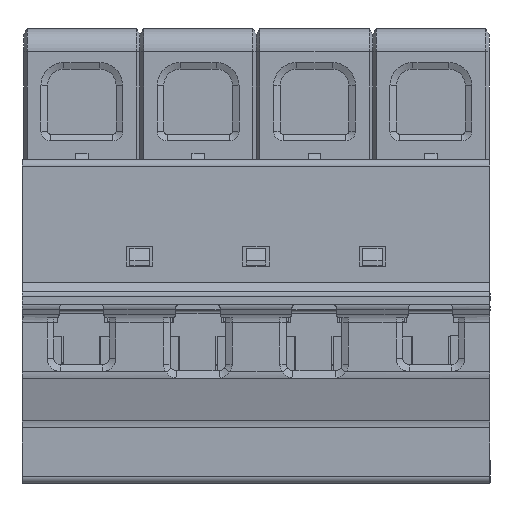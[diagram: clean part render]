
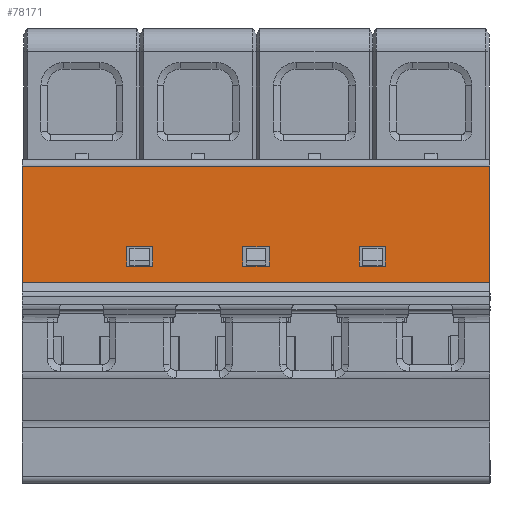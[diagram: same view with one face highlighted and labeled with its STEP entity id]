
A CAD part, left-side view. The second image highlights one B-rep face of the part: STEP entity #78171.
In plain terms, the highlighted planar face has unit normal (-1, 0, 0).
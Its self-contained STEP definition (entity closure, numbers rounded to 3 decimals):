
#1356=DIRECTION('',(0.,0.,-1.));
#1357=VECTOR('',#1356,17.8);
#1358=CARTESIAN_POINT('',(-0.05,71.6,43.));
#1359=LINE('',#1358,#1357);
#3136=DIRECTION('',(0.,-1.,0.));
#3137=VECTOR('',#3136,71.6);
#3138=CARTESIAN_POINT('',(-0.05,71.6,25.2));
#3139=LINE('',#3138,#3137);
#3140=DIRECTION('',(0.,0.,-1.));
#3141=VECTOR('',#3140,17.8);
#3142=CARTESIAN_POINT('',(-0.05,0.,43.));
#3143=LINE('',#3142,#3141);
#3144=DIRECTION('',(0.,0.,1.));
#3145=VECTOR('',#3144,3.);
#3146=CARTESIAN_POINT('',(-0.05,16.,27.7));
#3147=LINE('',#3146,#3145);
#3148=DIRECTION('',(0.,-1.,0.));
#3149=VECTOR('',#3148,4.);
#3150=CARTESIAN_POINT('',(-0.05,20.,27.7));
#3151=LINE('',#3150,#3149);
#3152=DIRECTION('',(0.,0.,1.));
#3153=VECTOR('',#3152,3.);
#3154=CARTESIAN_POINT('',(-0.05,51.6,27.7));
#3155=LINE('',#3154,#3153);
#3156=DIRECTION('',(0.,1.,0.));
#3157=VECTOR('',#3156,4.);
#3158=CARTESIAN_POINT('',(-0.05,51.6,30.7));
#3159=LINE('',#3158,#3157);
#3160=DIRECTION('',(0.,1.,0.));
#3161=VECTOR('',#3160,71.6);
#3162=CARTESIAN_POINT('',(-0.05,0.,43.));
#3163=LINE('',#3162,#3161);
#17235=DIRECTION('',(0.,-1.,0.));
#17236=VECTOR('',#17235,4.);
#17237=CARTESIAN_POINT('',(-0.05,20.,30.7));
#17238=LINE('',#17237,#17236);
#17243=DIRECTION('',(0.,0.,1.));
#17244=VECTOR('',#17243,3.);
#17245=CARTESIAN_POINT('',(-0.05,20.,27.7));
#17246=LINE('',#17245,#17244);
#17351=DIRECTION('',(0.,0.,-1.));
#17352=VECTOR('',#17351,3.);
#17353=CARTESIAN_POINT('',(-0.05,33.8,30.7));
#17354=LINE('',#17353,#17352);
#17363=DIRECTION('',(0.,1.,0.));
#17364=VECTOR('',#17363,4.);
#17365=CARTESIAN_POINT('',(-0.05,33.8,27.7));
#17366=LINE('',#17365,#17364);
#17375=DIRECTION('',(0.,0.,1.));
#17376=VECTOR('',#17375,3.);
#17377=CARTESIAN_POINT('',(-0.05,37.8,27.7));
#17378=LINE('',#17377,#17376);
#17383=DIRECTION('',(0.,-1.,0.));
#17384=VECTOR('',#17383,4.);
#17385=CARTESIAN_POINT('',(-0.05,37.8,30.7));
#17386=LINE('',#17385,#17384);
#33550=DIRECTION('',(0.,0.,1.));
#33551=VECTOR('',#33550,3.);
#33552=CARTESIAN_POINT('',(-0.05,55.6,27.7));
#33553=LINE('',#33552,#33551);
#33562=DIRECTION('',(0.,1.,0.));
#33563=VECTOR('',#33562,4.);
#33564=CARTESIAN_POINT('',(-0.05,51.6,27.7));
#33565=LINE('',#33564,#33563);
#57466=CARTESIAN_POINT('',(-0.05,0.,25.2));
#57467=VERTEX_POINT('',#57466);
#57468=CARTESIAN_POINT('',(-0.05,0.,43.));
#57469=VERTEX_POINT('',#57468);
#58319=CARTESIAN_POINT('',(-0.05,71.6,43.));
#58320=VERTEX_POINT('',#58319);
#58321=CARTESIAN_POINT('',(-0.05,71.6,25.2));
#58322=VERTEX_POINT('',#58321);
#59386=CARTESIAN_POINT('',(-0.05,33.8,30.7));
#59387=CARTESIAN_POINT('',(-0.05,33.8,27.7));
#59388=VERTEX_POINT('',#59386);
#59389=VERTEX_POINT('',#59387);
#59390=CARTESIAN_POINT('',(-0.05,37.8,30.7));
#59391=VERTEX_POINT('',#59390);
#59392=CARTESIAN_POINT('',(-0.05,37.8,27.7));
#59393=VERTEX_POINT('',#59392);
#59394=CARTESIAN_POINT('',(-0.05,16.,27.7));
#59395=CARTESIAN_POINT('',(-0.05,16.,30.7));
#59396=VERTEX_POINT('',#59394);
#59397=VERTEX_POINT('',#59395);
#59398=CARTESIAN_POINT('',(-0.05,20.,30.7));
#59399=VERTEX_POINT('',#59398);
#59400=CARTESIAN_POINT('',(-0.05,20.,27.7));
#59401=VERTEX_POINT('',#59400);
#59402=CARTESIAN_POINT('',(-0.05,55.6,27.7));
#59403=CARTESIAN_POINT('',(-0.05,55.6,30.7));
#59404=VERTEX_POINT('',#59402);
#59405=VERTEX_POINT('',#59403);
#59406=CARTESIAN_POINT('',(-0.05,51.6,27.7));
#59407=VERTEX_POINT('',#59406);
#59408=CARTESIAN_POINT('',(-0.05,51.6,30.7));
#59409=VERTEX_POINT('',#59408);
#78129=CARTESIAN_POINT('',(-0.05,35.8,-5.5));
#78130=DIRECTION('',(-1.,0.,0.));
#78131=DIRECTION('',(0.,0.,1.));
#78132=AXIS2_PLACEMENT_3D('',#78129,#78130,#78131);
#78133=PLANE('',#78132);
#78134=ORIENTED_EDGE('',*,*,#76194,.F.);
#78136=ORIENTED_EDGE('',*,*,#78135,.F.);
#78137=ORIENTED_EDGE('',*,*,#75196,.T.);
#78138=ORIENTED_EDGE('',*,*,#78123,.F.);
#78139=EDGE_LOOP('',(#78134,#78136,#78137,#78138));
#78140=FACE_OUTER_BOUND('',#78139,.F.);
#78142=ORIENTED_EDGE('',*,*,#78141,.F.);
#78144=ORIENTED_EDGE('',*,*,#78143,.F.);
#78146=ORIENTED_EDGE('',*,*,#78145,.F.);
#78148=ORIENTED_EDGE('',*,*,#78147,.F.);
#78149=EDGE_LOOP('',(#78142,#78144,#78146,#78148));
#78150=FACE_BOUND('',#78149,.F.);
#78152=ORIENTED_EDGE('',*,*,#78151,.T.);
#78154=ORIENTED_EDGE('',*,*,#78153,.F.);
#78156=ORIENTED_EDGE('',*,*,#78155,.F.);
#78158=ORIENTED_EDGE('',*,*,#78157,.T.);
#78159=EDGE_LOOP('',(#78152,#78154,#78156,#78158));
#78160=FACE_BOUND('',#78159,.F.);
#78162=ORIENTED_EDGE('',*,*,#78161,.F.);
#78164=ORIENTED_EDGE('',*,*,#78163,.F.);
#78166=ORIENTED_EDGE('',*,*,#78165,.T.);
#78168=ORIENTED_EDGE('',*,*,#78167,.T.);
#78169=EDGE_LOOP('',(#78162,#78164,#78166,#78168));
#78170=FACE_BOUND('',#78169,.F.);
#78171=ADVANCED_FACE('',(#78140,#78150,#78160,#78170),#78133,.T.);
#75196=EDGE_CURVE('',#57469,#57467,#3143,.T.);
#76194=EDGE_CURVE('',#58320,#58322,#1359,.T.);
#78123=EDGE_CURVE('',#58322,#57467,#3139,.T.);
#78135=EDGE_CURVE('',#57469,#58320,#3163,.T.);
#78141=EDGE_CURVE('',#59388,#59389,#17354,.T.);
#78143=EDGE_CURVE('',#59391,#59388,#17386,.T.);
#78145=EDGE_CURVE('',#59393,#59391,#17378,.T.);
#78147=EDGE_CURVE('',#59389,#59393,#17366,.T.);
#78151=EDGE_CURVE('',#59396,#59397,#3147,.T.);
#78153=EDGE_CURVE('',#59399,#59397,#17238,.T.);
#78155=EDGE_CURVE('',#59401,#59399,#17246,.T.);
#78157=EDGE_CURVE('',#59401,#59396,#3151,.T.);
#78161=EDGE_CURVE('',#59404,#59405,#33553,.T.);
#78163=EDGE_CURVE('',#59407,#59404,#33565,.T.);
#78165=EDGE_CURVE('',#59407,#59409,#3155,.T.);
#78167=EDGE_CURVE('',#59409,#59405,#3159,.T.);
